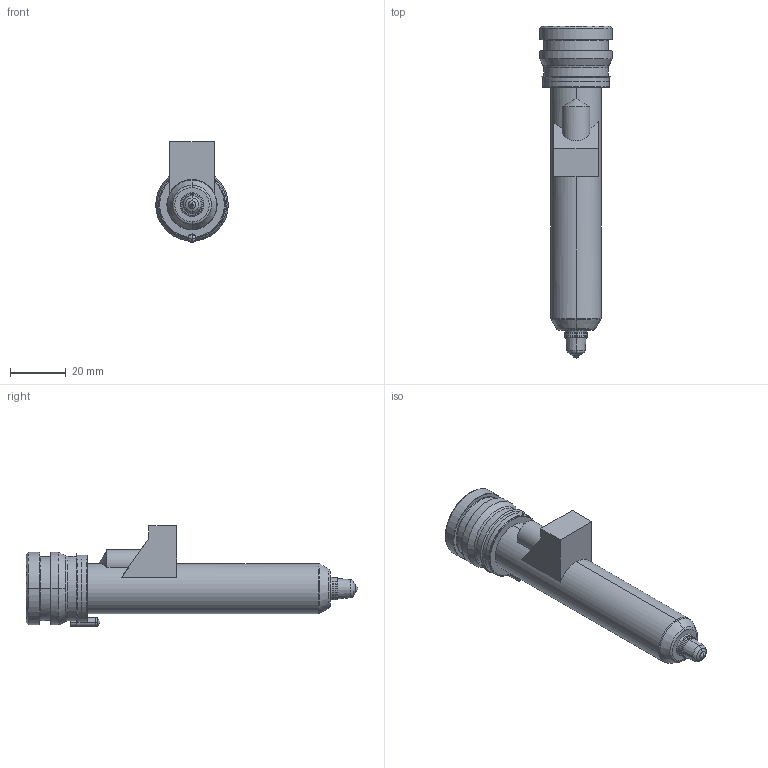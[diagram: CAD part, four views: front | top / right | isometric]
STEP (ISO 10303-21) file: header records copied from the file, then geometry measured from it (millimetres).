
FILE_DESCRIPTION((''),'2;1');
FILE_NAME('TH18101-M-1B50-PK-JG','2023-12-14T',('umhib'),('Thermoplay S.p.A.'),'PRO/ENGINEER BY PARAMETRIC TECHNOLOGY CORPORATION, 2017170','PRO/ENGINEER BY PARAMETRIC TECHNOLOGY CORPORATION, 2017170','');
FILE_SCHEMA(('CONFIG_CONTROL_DESIGN'));
Length unit declared in the file: millimetre
Products named in the file (1): TH18101-M-1B50-PK-JG
Bounding box: 26 x 119 x 36.1 mm (x, y, z)
Volume: 24330 mm3; surface area: 18790.6 mm2
Topology: 1 solids, 2 shells, 389 faces, 993 edges, 609 vertices
Faces by surface type: cylinder 149, plane 87, cone 62, torus 56, bspline 22, sphere 11, extrusion 2
Entity records: 16887 total; most frequent: CARTESIAN_POINT 5244, DIRECTION 1992, ORIENTED_EDGE 1960, EDGE_CURVE 982, AXIS2_PLACEMENT_3D 802, VERTEX_POINT 609, CIRCLE 436, EDGE_LOOP 412
